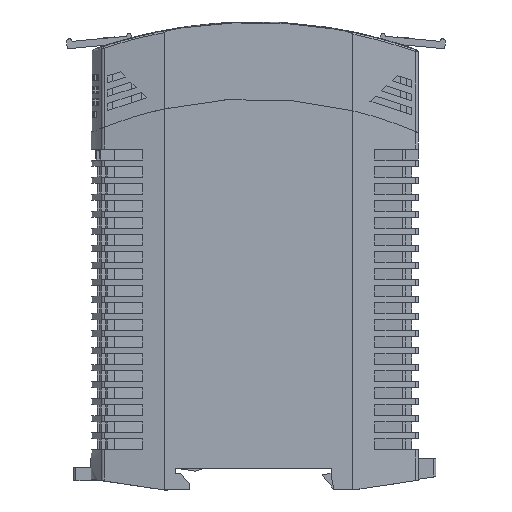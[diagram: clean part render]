
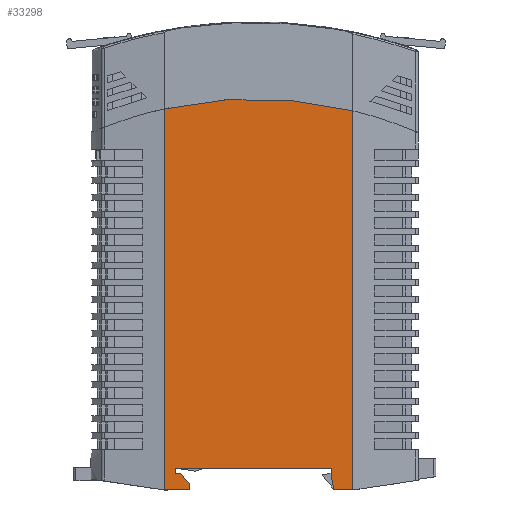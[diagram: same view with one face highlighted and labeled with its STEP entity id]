
A CAD part, left-side view. The second image highlights one B-rep face of the part: STEP entity #33298.
In plain terms, the highlighted planar face has unit normal (-1, 0, 0).
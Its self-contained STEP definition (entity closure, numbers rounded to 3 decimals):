
#22553=CARTESIAN_POINT('',(-36.25,58.2,-5.));
#22554=VERTEX_POINT('',#22553);
#22561=CARTESIAN_POINT('',(-36.25,58.2,82.207));
#22562=VERTEX_POINT('',#22561);
#22563=CARTESIAN_POINT('',(-36.25,58.2,-5.0));
#22564=DIRECTION('',(0.0,0.0,1.0));
#22565=VECTOR('',#22564,87.207);
#22566=LINE('',#22563,#22565);
#22567=EDGE_CURVE('',#22562,#22554,#22566,.F.);
#22584=CARTESIAN_POINT('',(-36.25,52.4,-5.0));
#22585=VERTEX_POINT('',#22584);
#22586=CARTESIAN_POINT('',(-36.25,52.4,-3.6));
#22587=VERTEX_POINT('',#22586);
#22588=CARTESIAN_POINT('',(-36.25,52.4,-5.0));
#22589=DIRECTION('',(0.0,0.0,1.0));
#22590=VECTOR('',#22589,1.4);
#22591=LINE('',#22588,#22590);
#22592=EDGE_CURVE('',#22585,#22587,#22591,.T.);
#22615=CARTESIAN_POINT('',(-36.25,54.5,-1.3));
#22616=VERTEX_POINT('',#22615);
#22617=CARTESIAN_POINT('',(-36.25,52.4,-3.6));
#22618=DIRECTION('',(0.0,0.674,0.738));
#22619=VECTOR('',#22618,3.114);
#22620=LINE('',#22617,#22619);
#22621=EDGE_CURVE('',#22587,#22616,#22620,.T.);
#22639=CARTESIAN_POINT('',(-36.25,55.7,-1.3));
#22640=VERTEX_POINT('',#22639);
#22641=CARTESIAN_POINT('',(-36.25,54.5,-1.3));
#22642=DIRECTION('',(0.0,1.0,0.0));
#22643=VECTOR('',#22642,1.2);
#22644=LINE('',#22641,#22643);
#22645=EDGE_CURVE('',#22616,#22640,#22644,.T.);
#22663=CARTESIAN_POINT('',(-36.25,55.7,0.0));
#22664=VERTEX_POINT('',#22663);
#22665=CARTESIAN_POINT('',(-36.25,55.7,-1.3));
#22666=DIRECTION('',(0.0,0.0,1.0));
#22667=VECTOR('',#22666,1.3);
#22668=LINE('',#22665,#22667);
#22669=EDGE_CURVE('',#22640,#22664,#22668,.T.);
#22688=CARTESIAN_POINT('',(-36.25,20.0,0.0));
#22689=VERTEX_POINT('',#22688);
#22714=CARTESIAN_POINT('',(-36.25,20.,-1.5));
#22715=VERTEX_POINT('',#22714);
#22722=CARTESIAN_POINT('',(-36.25,20.,-1.5));
#22723=DIRECTION('',(0.0,0.0,1.0));
#22724=VECTOR('',#22723,1.5);
#22725=LINE('',#22722,#22724);
#22726=EDGE_CURVE('',#22689,#22715,#22725,.F.);
#22736=CARTESIAN_POINT('',(-36.25,19.383,-5.0));
#22737=VERTEX_POINT('',#22736);
#22738=CARTESIAN_POINT('',(-36.25,20.,-1.5));
#22739=DIRECTION('',(0.0,-0.174,-0.985));
#22740=VECTOR('',#22739,3.554);
#22741=LINE('',#22738,#22740);
#22742=EDGE_CURVE('',#22715,#22737,#22741,.T.);
#23224=CARTESIAN_POINT('',(-36.25,15.0,-5.));
#23225=VERTEX_POINT('',#23224);
#23232=CARTESIAN_POINT('',(-36.25,15.0,-5.0));
#23233=DIRECTION('',(0.0,1.0,0.0));
#23234=VECTOR('',#23233,4.383);
#23235=LINE('',#23232,#23234);
#23236=EDGE_CURVE('',#22737,#23225,#23235,.F.);
#26748=CARTESIAN_POINT('',(-36.25,52.4,-5.0));
#26749=DIRECTION('',(0.0,1.0,0.0));
#26750=VECTOR('',#26749,5.8);
#26751=LINE('',#26748,#26750);
#26752=EDGE_CURVE('',#22554,#22585,#26751,.F.);
#26814=CARTESIAN_POINT('',(-36.25,20.,0.0));
#26815=DIRECTION('',(0.0,1.0,0.0));
#26816=VECTOR('',#26815,35.7);
#26817=LINE('',#26814,#26816);
#26818=EDGE_CURVE('',#22664,#22689,#26817,.F.);
#33254=CARTESIAN_POINT('',(-36.25,15.,81.785));
#33255=VERTEX_POINT('',#33254);
#33256=CARTESIAN_POINT('',(-36.25,37.5,-10.1));
#33257=DIRECTION('',(1.0,0.0,0.0));
#33258=DIRECTION('',(0.0,0.0,-1.0));
#33259=AXIS2_PLACEMENT_3D('',#33256,#33257,#33258);
#33260=CIRCLE('',#33259,94.6);
#33261=EDGE_CURVE('',#33255,#22562,#33260,.F.);
#33274=CARTESIAN_POINT('',(-36.25,58.2,0.0));
#33275=DIRECTION('',(-1.0,0.0,0.0));
#33276=DIRECTION('',(0.0,0.0,1.0));
#33277=AXIS2_PLACEMENT_3D('',#33274,#33275,#33276);
#33278=PLANE('',#33277);
#33279=ORIENTED_EDGE('',*,*,#23236,.T.);
#33280=CARTESIAN_POINT('',(-36.25,15.0,-5.));
#33281=DIRECTION('',(0.0,0.0,1.0));
#33282=VECTOR('',#33281,86.785);
#33283=LINE('',#33280,#33282);
#33284=EDGE_CURVE('',#33255,#23225,#33283,.F.);
#33285=ORIENTED_EDGE('',*,*,#33284,.F.);
#33286=ORIENTED_EDGE('',*,*,#33261,.T.);
#33287=ORIENTED_EDGE('',*,*,#22567,.T.);
#33288=ORIENTED_EDGE('',*,*,#26752,.T.);
#33289=ORIENTED_EDGE('',*,*,#22592,.T.);
#33290=ORIENTED_EDGE('',*,*,#22621,.T.);
#33291=ORIENTED_EDGE('',*,*,#22645,.T.);
#33292=ORIENTED_EDGE('',*,*,#22669,.T.);
#33293=ORIENTED_EDGE('',*,*,#26818,.T.);
#33294=ORIENTED_EDGE('',*,*,#22726,.T.);
#33295=ORIENTED_EDGE('',*,*,#22742,.T.);
#33296=EDGE_LOOP('',(#33279,#33285,#33286,#33287,#33288,#33289,#33290,#33291,#33292,#33293,#33294,#33295));
#33297=FACE_OUTER_BOUND('',#33296,.T.);
#33298=ADVANCED_FACE('',(#33297),#33278,.T.);
